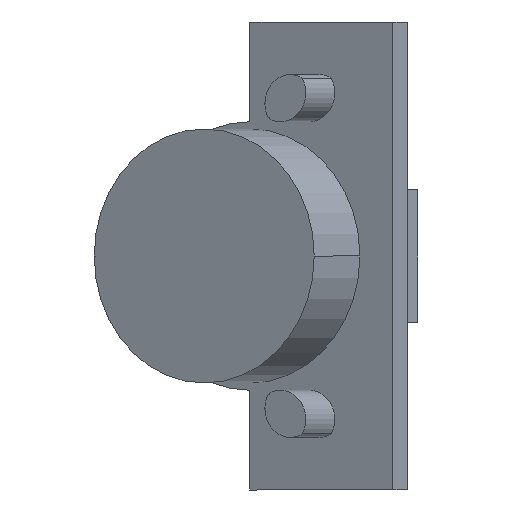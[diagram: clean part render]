
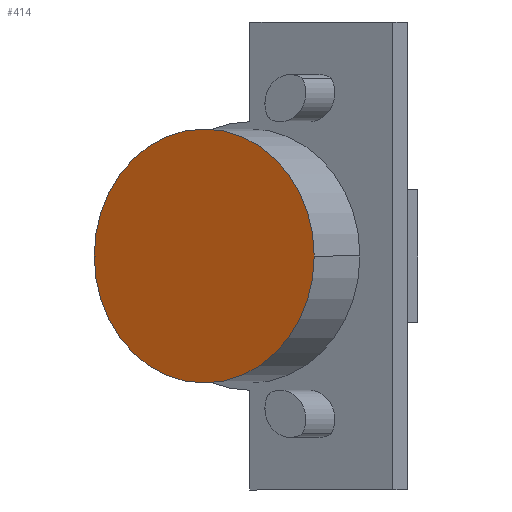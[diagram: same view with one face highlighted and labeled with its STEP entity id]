
A CAD part, front view. The second image highlights one B-rep face of the part: STEP entity #414.
In plain terms, the highlighted planar face has unit normal (-0.5, -0.866, 0).
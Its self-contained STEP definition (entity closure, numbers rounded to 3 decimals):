
#94 = CARTESIAN_POINT ( 'NONE',  ( -3.613, -48.012, 0. ) ) ;
#113 = CARTESIAN_POINT ( 'NONE',  ( -18.768, -39.262, 0. ) ) ;
#136 = ORIENTED_EDGE ( 'NONE', *, *, #821, .T. ) ;
#217 = CARTESIAN_POINT ( 'NONE',  ( -3.613, -48.012, 0. ) ) ;
#230 = CARTESIAN_POINT ( 'NONE',  ( 11.542, -56.762, 0. ) ) ;
#414 = ADVANCED_FACE ( 'NONE', ( #1271 ), #675, .T. ) ;
#448 = DIRECTION ( 'NONE',  ( 0.866, -0.5, 0. ) ) ;
#450 = DIRECTION ( 'NONE',  ( -0.5, -0.866, 0. ) ) ;
#577 = ORIENTED_EDGE ( 'NONE', *, *, #1319, .T. ) ;
#675 = PLANE ( 'NONE',  #1445 ) ;
#821 = EDGE_CURVE ( 'NONE', #1460, #1431, #1258, .T. ) ;
#947 = DIRECTION ( 'NONE',  ( -0.5, -0.866, 0. ) ) ;
#967 = DIRECTION ( 'NONE',  ( 0.866, -0.5, 0. ) ) ;
#1085 = DIRECTION ( 'NONE',  ( -0.5, -0.866, 0. ) ) ;
#1212 = CARTESIAN_POINT ( 'NONE',  ( -3.613, -48.012, 0. ) ) ;
#1227 = CIRCLE ( 'NONE', #1407, 17.5 ) ;
#1253 = AXIS2_PLACEMENT_3D ( 'NONE', #1212, #1085, #967 ) ;
#1258 = CIRCLE ( 'NONE', #1253, 17.5 ) ;
#1271 = FACE_OUTER_BOUND ( 'NONE', #1530, .T. ) ;
#1319 = EDGE_CURVE ( 'NONE', #1431, #1460, #1227, .T. ) ;
#1407 = AXIS2_PLACEMENT_3D ( 'NONE', #94, #450, #1560 ) ;
#1431 = VERTEX_POINT ( 'NONE', #113 ) ;
#1445 = AXIS2_PLACEMENT_3D ( 'NONE', #217, #947, #448 ) ;
#1460 = VERTEX_POINT ( 'NONE', #230 ) ;
#1530 = EDGE_LOOP ( 'NONE', ( #577, #136 ) ) ;
#1560 = DIRECTION ( 'NONE',  ( 0.866, -0.5, 0. ) ) ;
